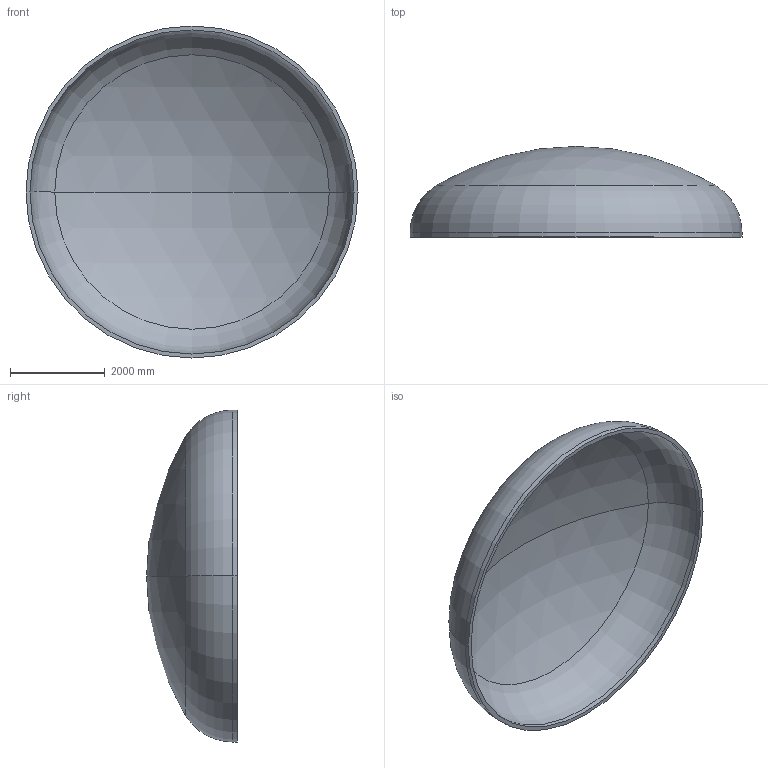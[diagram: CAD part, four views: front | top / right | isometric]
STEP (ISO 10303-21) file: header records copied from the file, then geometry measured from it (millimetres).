
FILE_DESCRIPTION (( 'STEP AP203' ), '1' );
FILE_NAME ('DIN 28013 Korbbogenform_-_Boden DIN 28013 - 7000 x 100 - I - s=84.step', '2016-07-04T10:49:22', ( '' ), ( '' ), 'SwSTEP 2.0', 'SolidWorks 2013', '' );
FILE_SCHEMA (( 'CONFIG_CONTROL_DESIGN' ));
Length unit declared in the file: millimetre
Products named in the file (1): DIN 28013 Korbbogenform_-_Boden DIN 28013 - 7000 x 100 - I - s=84
Bounding box: 7000 x 1914.44 x 7000 mm (x, y, z)
Volume: 4590882520.6 mm3; surface area: 111146552.2 mm2
Topology: 1 solids, 1 shells, 13 faces, 24 edges, 14 vertices
Faces by surface type: torus 4, cylinder 4, sphere 4, plane 1
Entity records: 407 total; most frequent: DIRECTION 72, CARTESIAN_POINT 52, ORIENTED_EDGE 48, AXIS2_PLACEMENT_3D 34, EDGE_CURVE 24, CIRCLE 20, VERTEX_POINT 14, EDGE_LOOP 14
